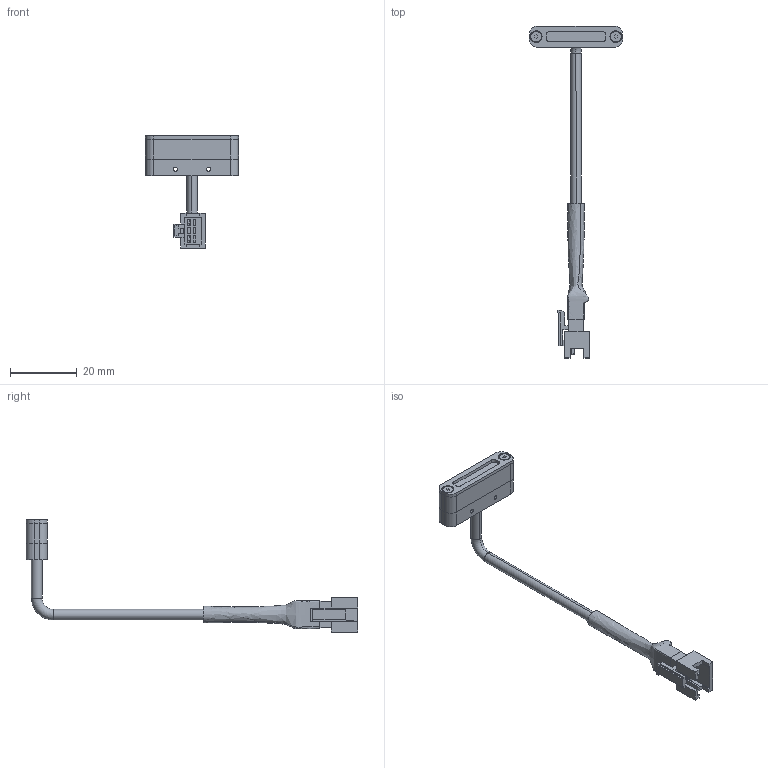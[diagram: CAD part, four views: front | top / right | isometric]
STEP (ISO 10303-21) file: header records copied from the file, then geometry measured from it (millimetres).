
FILE_DESCRIPTION (( 'STEP AP203' ), '1' );
FILE_NAME ('VBAU-193W _ Drawing _ L1481A_A00100.STEP', '2025-04-22T05:12:51', ( '' ), ( '' ), 'SwSTEP 2.0', 'SolidWorks 2020', '' );
FILE_SCHEMA (( 'CONFIG_CONTROL_DESIGN' ));
Length unit declared in the file: millimetre
Products named in the file (11): TUBE_3P; M1.6 X 3 ↖繷 ずせà ぃ葵 脸捣; VBAU193W _ TMVBAU001D302A_底座 _ L1481A-M00200; VBAU-193W _ Drawing _ L1481A_A00100; VBAU193W _ TMVBAU001D301A_基座 _ L1481A-M00100; M1.6 X 8 ↖繷 ずせà ぃ葵 脸捣; SM2.5-3P_TUBE_SET + 24awg  3.2mm OD x 2C; 2601-3H; 24AWG 纜線; VBAU193W _ TMVBAU001D304A_上蓋 _ L1481A-M00400; SM2.5-3P_TUBE_SET
Assembly tree (13 placements, depth 4):
  VBAU-193W _ Drawing _ L1481A_A00100
    VBAU193W _ TMVBAU001D302A_底座 _ L1481A-M00200
    VBAU193W _ TMVBAU001D304A_上蓋 _ L1481A-M00400
    M1.6 X 8 ↖繷 ずせà ぃ葵 脸捣  x2
    M1.6 X 3 ↖繷 ずせà ぃ葵 脸捣  x2
    SM2.5-3P_TUBE_SET + 24awg  3.2mm OD x 2C
      SM2.5-3P_TUBE_SET
        2601-3H
        TUBE_3P
      24AWG 纜線
      TUBE_3P
    VBAU193W _ TMVBAU001D301A_基座 _ L1481A-M00100
Bounding box: 28 x 99.75 x 33.75 mm (x, y, z)
Volume: 4774.7 mm3; surface area: 5704.3 mm2
Topology: 13 solids, 13 shells, 262 faces, 664 edges, 434 vertices
Faces by surface type: plane 174, cylinder 58, cone 24, bspline 4, torus 2
Entity records: 9243 total; most frequent: CARTESIAN_POINT 2326, DIRECTION 1178, ORIENTED_EDGE 1160, EDGE_CURVE 580, VECTOR 458, LINE 458, VERTEX_POINT 380, AXIS2_PLACEMENT_3D 360
